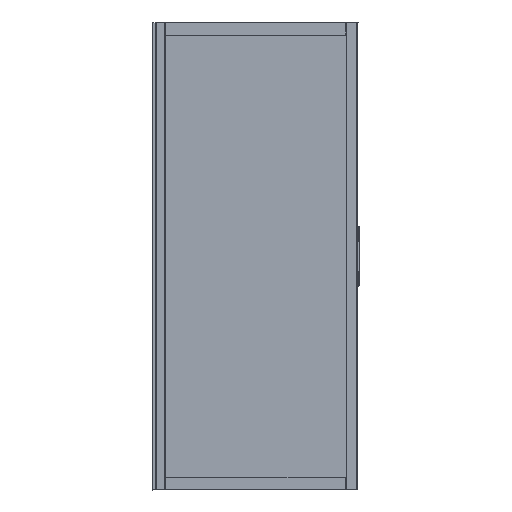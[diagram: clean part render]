
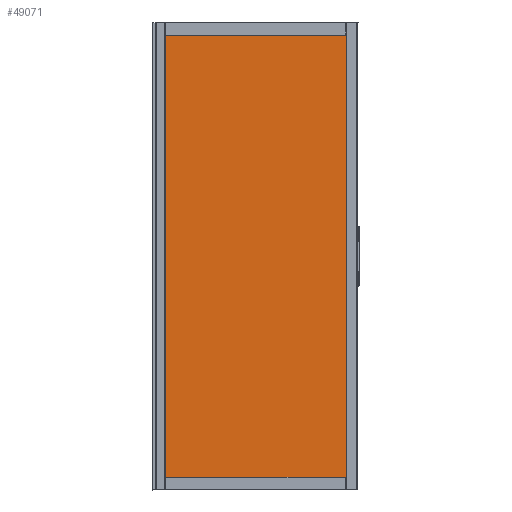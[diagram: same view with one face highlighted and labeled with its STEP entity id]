
A CAD part, front view. The second image highlights one B-rep face of the part: STEP entity #49071.
In plain terms, the highlighted planar face has unit normal (0, -1, 0).
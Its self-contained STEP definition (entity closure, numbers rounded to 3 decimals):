
#3205=LINE($,#85396,#7660);
#3384=LINE($,#85957,#7839);
#3390=LINE($,#85974,#7845);
#3417=LINE($,#86041,#7872);
#3434=LINE($,#86077,#7889);
#3436=LINE($,#86081,#7891);
#3481=LINE($,#86173,#7936);
#3747=LINE($,#87001,#8202);
#3753=LINE($,#87018,#8208);
#3783=LINE($,#87089,#8238);
#3794=LINE($,#87115,#8249);
#3797=LINE($,#87120,#8252);
#3800=LINE($,#87126,#8255);
#3804=LINE($,#87133,#8259);
#3812=LINE($,#87148,#8267);
#3815=LINE($,#87153,#8270);
#3816=LINE($,#87155,#8271);
#3817=LINE($,#87157,#8272);
#3818=LINE($,#87158,#8273);
#3819=LINE($,#87159,#8274);
#3820=LINE($,#87160,#8275);
#7660=VECTOR($,#61244,1908.);
#7839=VECTOR($,#61681,770.);
#7845=VECTOR($,#61695,0.446);
#7872=VECTOR($,#61756,770.);
#7889=VECTOR($,#61795,0.446);
#7891=VECTOR($,#61797,7.);
#7936=VECTOR($,#61878,1907.);
#8202=VECTOR($,#62660,770.);
#8208=VECTOR($,#62674,0.446);
#8238=VECTOR($,#62738,770.);
#8249=VECTOR($,#62767,774.);
#8252=VECTOR($,#62772,7.85);
#8255=VECTOR($,#62777,8.15);
#8259=VECTOR($,#62783,7.85);
#8267=VECTOR($,#62795,1.);
#8270=VECTOR($,#62800,8.15);
#8271=VECTOR($,#62803,0.446);
#8272=VECTOR($,#62804,7.);
#8273=VECTOR($,#62805,7.);
#8274=VECTOR($,#62806,7.);
#8275=VECTOR($,#62807,774.);
#10573=PLANE($,#52764);
#12105=FACE_BOUND($,#16350,.T.);
#12106=FACE_BOUND($,#16351,.T.);
#12107=FACE_BOUND($,#16352,.T.);
#16350=EDGE_LOOP($,(#39391,#39392,#39393,#39394));
#16351=EDGE_LOOP($,(#39395,#39396,#39397,#39398));
#16352=EDGE_LOOP($,(#39399,#39400,#39401,#39402,#39403,#39404,#39405,#39406,
#39407,#39408,#39409,#39410,#39411));
#22119=VERTEX_POINT($,#85394);
#22120=VERTEX_POINT($,#85395);
#22286=VERTEX_POINT($,#85955);
#22287=VERTEX_POINT($,#85956);
#22294=VERTEX_POINT($,#85973);
#22317=VERTEX_POINT($,#86040);
#22326=VERTEX_POINT($,#86078);
#22327=VERTEX_POINT($,#86080);
#22355=VERTEX_POINT($,#86171);
#22356=VERTEX_POINT($,#86172);
#22573=VERTEX_POINT($,#86999);
#22574=VERTEX_POINT($,#87000);
#22581=VERTEX_POINT($,#87017);
#22605=VERTEX_POINT($,#87088);
#22610=VERTEX_POINT($,#87112);
#22611=VERTEX_POINT($,#87114);
#22613=VERTEX_POINT($,#87123);
#22616=VERTEX_POINT($,#87130);
#22621=VERTEX_POINT($,#87147);
#22622=VERTEX_POINT($,#87151);
#22623=VERTEX_POINT($,#87156);
#27762=EDGE_CURVE($,#22119,#22120,#3205,.T.);
#28006=EDGE_CURVE($,#22286,#22287,#3384,.T.);
#28014=EDGE_CURVE($,#22287,#22294,#3390,.T.);
#28048=EDGE_CURVE($,#22294,#22317,#3417,.T.);
#28068=EDGE_CURVE($,#22317,#22286,#3434,.T.);
#28070=EDGE_CURVE($,#22326,#22327,#3436,.T.);
#28118=EDGE_CURVE($,#22355,#22356,#3481,.T.);
#28497=EDGE_CURVE($,#22573,#22574,#3747,.T.);
#28505=EDGE_CURVE($,#22581,#22573,#3753,.T.);
#28542=EDGE_CURVE($,#22605,#22581,#3783,.T.);
#28555=EDGE_CURVE($,#22610,#22611,#3794,.T.);
#28558=EDGE_CURVE($,#22120,#22327,#3797,.T.);
#28561=EDGE_CURVE($,#22356,#22613,#3800,.T.);
#28565=EDGE_CURVE($,#22616,#22119,#3804,.T.);
#28573=EDGE_CURVE($,#22621,#22355,#3812,.T.);
#28576=EDGE_CURVE($,#22622,#22621,#3815,.T.);
#28577=EDGE_CURVE($,#22574,#22605,#3816,.T.);
#28578=EDGE_CURVE($,#22622,#22623,#3817,.T.);
#28579=EDGE_CURVE($,#22611,#22613,#3818,.T.);
#28580=EDGE_CURVE($,#22616,#22610,#3819,.T.);
#28581=EDGE_CURVE($,#22623,#22326,#3820,.T.);
#39391=ORIENTED_EDGE($,*,*,#28006,.T.);
#39392=ORIENTED_EDGE($,*,*,#28014,.T.);
#39393=ORIENTED_EDGE($,*,*,#28048,.T.);
#39394=ORIENTED_EDGE($,*,*,#28068,.T.);
#39395=ORIENTED_EDGE($,*,*,#28497,.T.);
#39396=ORIENTED_EDGE($,*,*,#28577,.T.);
#39397=ORIENTED_EDGE($,*,*,#28542,.T.);
#39398=ORIENTED_EDGE($,*,*,#28505,.T.);
#39399=ORIENTED_EDGE($,*,*,#28578,.F.);
#39400=ORIENTED_EDGE($,*,*,#28576,.T.);
#39401=ORIENTED_EDGE($,*,*,#28573,.T.);
#39402=ORIENTED_EDGE($,*,*,#28118,.T.);
#39403=ORIENTED_EDGE($,*,*,#28561,.T.);
#39404=ORIENTED_EDGE($,*,*,#28579,.F.);
#39405=ORIENTED_EDGE($,*,*,#28555,.F.);
#39406=ORIENTED_EDGE($,*,*,#28580,.F.);
#39407=ORIENTED_EDGE($,*,*,#28565,.T.);
#39408=ORIENTED_EDGE($,*,*,#27762,.T.);
#39409=ORIENTED_EDGE($,*,*,#28558,.T.);
#39410=ORIENTED_EDGE($,*,*,#28070,.F.);
#39411=ORIENTED_EDGE($,*,*,#28581,.F.);
#49071=ADVANCED_FACE($,(#12105,#12106,#12107),#10573,.T.);
#52764=AXIS2_PLACEMENT_3D($,#87154,#62801,#62802);
#61244=DIRECTION($,(0.,0.,-1.));
#61681=DIRECTION($,(1.,0.,0.));
#61695=DIRECTION($,(0.,0.,-1.));
#61756=DIRECTION($,(-1.,0.,0.));
#61795=DIRECTION($,(0.,0.,1.));
#61797=DIRECTION($,(0.,0.,-1.));
#61878=DIRECTION($,(0.,0.,1.));
#62660=DIRECTION($,(-1.,0.,0.));
#62674=DIRECTION($,(0.,0.,-1.));
#62738=DIRECTION($,(1.,0.,0.));
#62767=DIRECTION($,(1.,0.,0.));
#62772=DIRECTION($,(1.,0.,0.));
#62777=DIRECTION($,(-1.,0.,0.));
#62783=DIRECTION($,(-1.,0.,0.));
#62795=DIRECTION($,(0.,0.,1.));
#62800=DIRECTION($,(1.,0.,0.));
#62801=DIRECTION('center_axis',(0.,-1.,0.));
#62802=DIRECTION('ref_axis',(1.,0.,0.));
#62803=DIRECTION($,(0.,0.,1.));
#62804=DIRECTION($,(0.,0.,1.));
#62805=DIRECTION($,(0.,0.,1.));
#62806=DIRECTION($,(0.,0.,-1.));
#62807=DIRECTION($,(-1.,0.,0.));
#85394=CARTESIAN_POINT('',(-292.075,-798.159,2908.14));
#85395=CARTESIAN_POINT('',(-292.075,-798.159,1000.14));
#85396=CARTESIAN_POINT($,(-292.075,-798.159,2908.14));
#85955=CARTESIAN_POINT('',(-284.225,-798.159,1008.713));
#85956=CARTESIAN_POINT('',(485.775,-798.159,1008.713));
#85957=CARTESIAN_POINT($,(-284.225,-798.159,1008.713));
#85973=CARTESIAN_POINT('',(485.775,-798.159,1008.266));
#85974=CARTESIAN_POINT($,(485.775,-798.159,1717.023));
#86040=CARTESIAN_POINT('',(-284.225,-798.159,1008.266));
#86041=CARTESIAN_POINT($,(-284.225,-798.159,1008.266));
#86077=CARTESIAN_POINT($,(-284.225,-798.159,1717.023));
#86078=CARTESIAN_POINT('',(-284.225,-798.159,1007.14));
#86080=CARTESIAN_POINT('',(-284.225,-798.159,1000.14));
#86081=CARTESIAN_POINT($,(-284.225,-798.159,1706.465));
#86171=CARTESIAN_POINT('',(497.925,-798.159,1001.14));
#86172=CARTESIAN_POINT('',(497.925,-798.159,2908.14));
#86173=CARTESIAN_POINT($,(497.925,-798.159,1000.14));
#86999=CARTESIAN_POINT('',(485.775,-798.159,2899.567));
#87000=CARTESIAN_POINT('',(-284.225,-798.159,2899.567));
#87001=CARTESIAN_POINT($,(485.775,-798.159,2899.567));
#87017=CARTESIAN_POINT('',(485.775,-798.159,2900.013));
#87018=CARTESIAN_POINT($,(485.775,-798.159,2668.256));
#87088=CARTESIAN_POINT('',(-284.225,-798.159,2900.013));
#87089=CARTESIAN_POINT($,(485.775,-798.159,2900.013));
#87112=CARTESIAN_POINT('',(-284.225,-798.159,2901.14));
#87114=CARTESIAN_POINT('',(489.775,-798.159,2901.14));
#87115=CARTESIAN_POINT($,(-189.4,-798.159,2901.14));
#87120=CARTESIAN_POINT($,(-292.075,-798.159,1000.14));
#87123=CARTESIAN_POINT('',(489.775,-798.159,2908.14));
#87126=CARTESIAN_POINT($,(497.925,-798.159,2908.14));
#87130=CARTESIAN_POINT('',(-284.225,-798.159,2908.14));
#87133=CARTESIAN_POINT($,(497.925,-798.159,2908.14));
#87147=CARTESIAN_POINT('',(497.925,-798.159,1000.14));
#87148=CARTESIAN_POINT($,(497.925,-798.159,1000.14));
#87151=CARTESIAN_POINT('',(489.775,-798.159,1000.14));
#87153=CARTESIAN_POINT($,(-292.075,-798.159,1000.14));
#87154=CARTESIAN_POINT('Origin',(-94.575,-798.159,2431.14));
#87155=CARTESIAN_POINT($,(-284.225,-798.159,2668.256));
#87156=CARTESIAN_POINT('',(489.775,-798.159,1007.14));
#87157=CARTESIAN_POINT($,(489.775,-798.159,1706.465));
#87158=CARTESIAN_POINT($,(489.775,-798.159,2678.815));
#87159=CARTESIAN_POINT($,(-284.225,-798.159,2678.815));
#87160=CARTESIAN_POINT($,(197.6,-798.159,1007.14));
